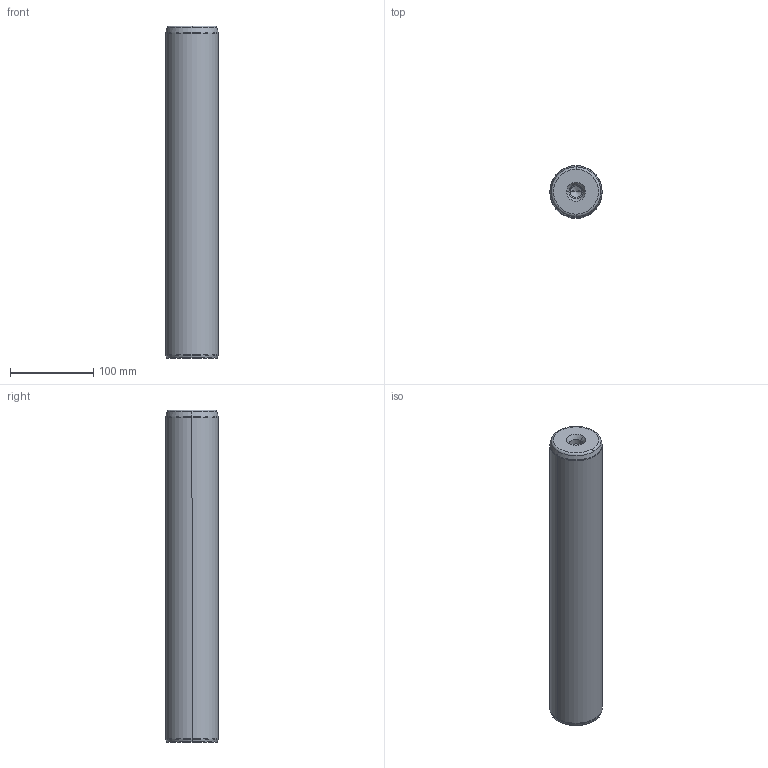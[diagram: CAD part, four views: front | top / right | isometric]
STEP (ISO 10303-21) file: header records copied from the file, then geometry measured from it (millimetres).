
FILE_DESCRIPTION((''),'2;1');
FILE_NAME('P10_063_400.stp','2008-12-23T16:17:40',(''),(''),'Mechanical Desktop 2009','Mechanical Desktop 2009',', , ');
FILE_SCHEMA(('CONFIG_CONTROL_DESIGN'));
Length unit declared in the file: millimetre
Products named in the file (5): Product; ProductAA; blmdl1; ProductA; blmdl1A
Assembly tree (2 placements, depth 3):
  Product
    ProductAA
      blmdl1
  ProductA
  blmdl1A
Bounding box: 63 x 63 x 400 mm (x, y, z)
Volume: 1236194.3 mm3; surface area: 86671.5 mm2
Topology: 1 solids, 1 shells, 26 faces, 66 edges, 41 vertices
Faces by surface type: cone 10, torus 8, cylinder 6, plane 2
Entity records: 1012 total; most frequent: DIRECTION 170, CARTESIAN_POINT 134, ORIENTED_EDGE 128, AXIS2_PLACEMENT_3D 77, EDGE_CURVE 64, CIRCLE 48, VERTEX_POINT 41, EDGE_LOOP 27
